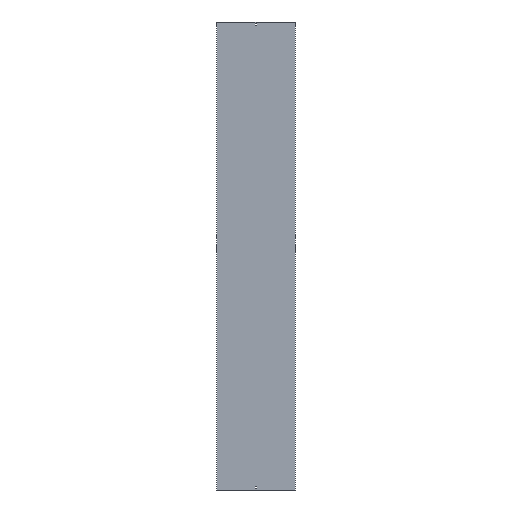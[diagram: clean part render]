
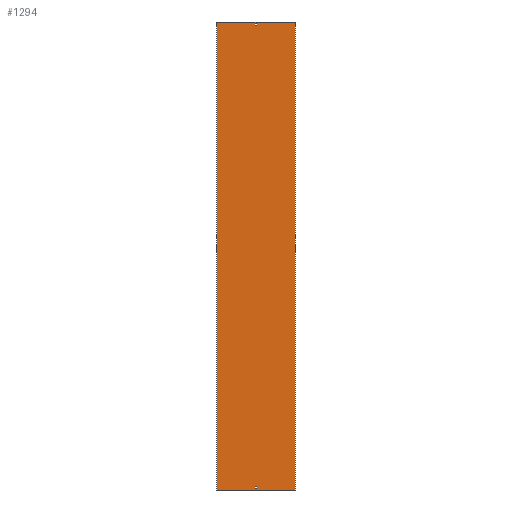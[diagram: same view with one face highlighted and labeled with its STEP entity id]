
A CAD part, front view. The second image highlights one B-rep face of the part: STEP entity #1294.
In plain terms, the highlighted planar face has unit normal (0, -1, 0).
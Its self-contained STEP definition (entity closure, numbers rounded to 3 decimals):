
#9 = ORIENTED_EDGE ( 'NONE', *, *, #1114, .T. ) ;
#12 = VERTEX_POINT ( 'NONE', #296 ) ;
#19 = CARTESIAN_POINT ( 'NONE',  ( -3.25, 0., -1479. ) ) ;
#35 = DIRECTION ( 'NONE',  ( -1., 0., 0. ) ) ;
#60 = AXIS2_PLACEMENT_3D ( 'NONE', #92, #774, #1527 ) ;
#75 = VERTEX_POINT ( 'NONE', #1460 ) ;
#92 = CARTESIAN_POINT ( 'NONE',  ( -252., 0., 1500. ) ) ;
#100 = FACE_BOUND ( 'NONE', #444, .T. ) ;
#125 = CARTESIAN_POINT ( 'NONE',  ( -3.25, 0., -1479. ) ) ;
#133 = ORIENTED_EDGE ( 'NONE', *, *, #271, .F. ) ;
#143 = VERTEX_POINT ( 'NONE', #751 ) ;
#147 = VECTOR ( 'NONE', #434, 1000. ) ;
#182 = CARTESIAN_POINT ( 'NONE',  ( -3.25, 0., -1488. ) ) ;
#186 = CARTESIAN_POINT ( 'NONE',  ( -3.25, 0., -1488. ) ) ;
#192 = DIRECTION ( 'NONE',  ( 0., 0., -1. ) ) ;
#198 = ORIENTED_EDGE ( 'NONE', *, *, #267, .F. ) ;
#267 = EDGE_CURVE ( 'NONE', #1670, #75, #1423, .T. ) ;
#271 = EDGE_CURVE ( 'NONE', #402, #143, #1430, .T. ) ;
#290 = VERTEX_POINT ( 'NONE', #917 ) ;
#296 = CARTESIAN_POINT ( 'NONE',  ( 3.25, 0., -1479. ) ) ;
#302 = EDGE_CURVE ( 'NONE', #1062, #12, #764, .T. ) ;
#306 = LINE ( 'NONE', #1210, #415 ) ;
#319 = CARTESIAN_POINT ( 'NONE',  ( 3.25, 0., -1488. ) ) ;
#323 = EDGE_CURVE ( 'NONE', #75, #854, #1317, .T. ) ;
#338 = ORIENTED_EDGE ( 'NONE', *, *, #348, .F. ) ;
#344 = CARTESIAN_POINT ( 'NONE',  ( 252., 0., -1500. ) ) ;
#348 = EDGE_CURVE ( 'NONE', #1618, #402, #1608, .T. ) ;
#369 = FACE_OUTER_BOUND ( 'NONE', #1408, .T. ) ;
#395 = EDGE_CURVE ( 'NONE', #12, #832, #420, .T. ) ;
#402 = VERTEX_POINT ( 'NONE', #807 ) ;
#415 = VECTOR ( 'NONE', #1568, 1000. ) ;
#419 = ORIENTED_EDGE ( 'NONE', *, *, #1491, .F. ) ;
#420 = LINE ( 'NONE', #319, #1037 ) ;
#434 = DIRECTION ( 'NONE',  ( 1., 0., 0. ) ) ;
#444 = EDGE_LOOP ( 'NONE', ( #542, #1470, #1555, #1372 ) ) ;
#542 = ORIENTED_EDGE ( 'NONE', *, *, #679, .T. ) ;
#551 = ORIENTED_EDGE ( 'NONE', *, *, #1432, .T. ) ;
#563 = LINE ( 'NONE', #955, #1385 ) ;
#585 = LINE ( 'NONE', #984, #1032 ) ;
#607 = PLANE ( 'NONE',  #60 ) ;
#661 = CARTESIAN_POINT ( 'NONE',  ( 3.25, 0., 1488. ) ) ;
#674 = CARTESIAN_POINT ( 'NONE',  ( -3.25, 0., 1488. ) ) ;
#679 = EDGE_CURVE ( 'NONE', #1314, #1062, #1570, .T. ) ;
#687 = CARTESIAN_POINT ( 'NONE',  ( -3.25, 0., 1479. ) ) ;
#727 = EDGE_CURVE ( 'NONE', #143, #873, #805, .T. ) ;
#751 = CARTESIAN_POINT ( 'NONE',  ( 3.25, 0., 1488. ) ) ;
#764 = LINE ( 'NONE', #125, #1629 ) ;
#772 = CARTESIAN_POINT ( 'NONE',  ( -252., 0., 1500. ) ) ;
#774 = DIRECTION ( 'NONE',  ( 0., 1., 0. ) ) ;
#780 = DIRECTION ( 'NONE',  ( 0., 0., -1. ) ) ;
#799 = DIRECTION ( 'NONE',  ( 1., 0., 0. ) ) ;
#805 = LINE ( 'NONE', #674, #1276 ) ;
#807 = CARTESIAN_POINT ( 'NONE',  ( 3.25, 0., 1479. ) ) ;
#816 = DIRECTION ( 'NONE',  ( 0., 0., -1. ) ) ;
#826 = DIRECTION ( 'NONE',  ( -1., 0., 0. ) ) ;
#832 = VERTEX_POINT ( 'NONE', #1257 ) ;
#854 = VERTEX_POINT ( 'NONE', #344 ) ;
#873 = VERTEX_POINT ( 'NONE', #1251 ) ;
#901 = DIRECTION ( 'NONE',  ( 1., 0., 0. ) ) ;
#903 = FACE_BOUND ( 'NONE', #1349, .T. ) ;
#917 = CARTESIAN_POINT ( 'NONE',  ( -252., 0., -1500. ) ) ;
#940 = LINE ( 'NONE', #186, #973 ) ;
#955 = CARTESIAN_POINT ( 'NONE',  ( -3.25, 0., 1488. ) ) ;
#973 = VECTOR ( 'NONE', #35, 1000. ) ;
#984 = CARTESIAN_POINT ( 'NONE',  ( -252., 0., 1500. ) ) ;
#1032 = VECTOR ( 'NONE', #192, 1000. ) ;
#1037 = VECTOR ( 'NONE', #816, 1000. ) ;
#1062 = VERTEX_POINT ( 'NONE', #19 ) ;
#1064 = VECTOR ( 'NONE', #1463, 1000. ) ;
#1078 = EDGE_CURVE ( 'NONE', #832, #1314, #940, .T. ) ;
#1114 = EDGE_CURVE ( 'NONE', #290, #854, #306, .T. ) ;
#1137 = VECTOR ( 'NONE', #901, 1000. ) ;
#1146 = CARTESIAN_POINT ( 'NONE',  ( -3.25, 0., 1479. ) ) ;
#1154 = CARTESIAN_POINT ( 'NONE',  ( 252., 0., 1500. ) ) ;
#1174 = CARTESIAN_POINT ( 'NONE',  ( -252., 0., 1500. ) ) ;
#1210 = CARTESIAN_POINT ( 'NONE',  ( -252., 0., -1500. ) ) ;
#1232 = DIRECTION ( 'NONE',  ( 0., 0., -1. ) ) ;
#1251 = CARTESIAN_POINT ( 'NONE',  ( -3.25, 0., 1488. ) ) ;
#1257 = CARTESIAN_POINT ( 'NONE',  ( 3.25, 0., -1488. ) ) ;
#1276 = VECTOR ( 'NONE', #826, 1000. ) ;
#1294 = ADVANCED_FACE ( 'NONE', ( #369, #903, #100 ), #607, .F. ) ;
#1314 = VERTEX_POINT ( 'NONE', #1677 ) ;
#1317 = LINE ( 'NONE', #1154, #1361 ) ;
#1322 = ORIENTED_EDGE ( 'NONE', *, *, #727, .F. ) ;
#1349 = EDGE_LOOP ( 'NONE', ( #338, #419, #1322, #133 ) ) ;
#1361 = VECTOR ( 'NONE', #780, 1000. ) ;
#1372 = ORIENTED_EDGE ( 'NONE', *, *, #1078, .T. ) ;
#1385 = VECTOR ( 'NONE', #1232, 1000. ) ;
#1408 = EDGE_LOOP ( 'NONE', ( #9, #1596, #198, #551 ) ) ;
#1423 = LINE ( 'NONE', #1174, #1137 ) ;
#1430 = LINE ( 'NONE', #661, #1578 ) ;
#1432 = EDGE_CURVE ( 'NONE', #1670, #290, #585, .T. ) ;
#1460 = CARTESIAN_POINT ( 'NONE',  ( 252., 0., 1500. ) ) ;
#1463 = DIRECTION ( 'NONE',  ( 0., 0., 1. ) ) ;
#1470 = ORIENTED_EDGE ( 'NONE', *, *, #302, .T. ) ;
#1491 = EDGE_CURVE ( 'NONE', #873, #1618, #563, .T. ) ;
#1527 = DIRECTION ( 'NONE',  ( -1., 0., 0. ) ) ;
#1555 = ORIENTED_EDGE ( 'NONE', *, *, #395, .T. ) ;
#1568 = DIRECTION ( 'NONE',  ( 1., 0., 0. ) ) ;
#1570 = LINE ( 'NONE', #182, #1064 ) ;
#1572 = DIRECTION ( 'NONE',  ( 0., 0., 1. ) ) ;
#1578 = VECTOR ( 'NONE', #1572, 1000. ) ;
#1596 = ORIENTED_EDGE ( 'NONE', *, *, #323, .F. ) ;
#1608 = LINE ( 'NONE', #687, #147 ) ;
#1618 = VERTEX_POINT ( 'NONE', #1146 ) ;
#1629 = VECTOR ( 'NONE', #799, 1000. ) ;
#1670 = VERTEX_POINT ( 'NONE', #772 ) ;
#1677 = CARTESIAN_POINT ( 'NONE',  ( -3.25, 0., -1488. ) ) ;
